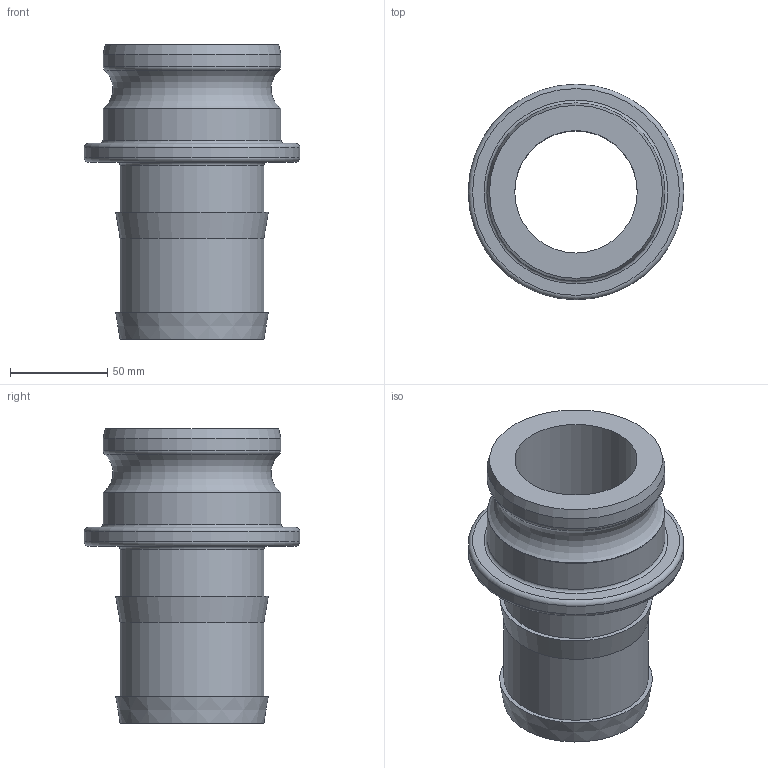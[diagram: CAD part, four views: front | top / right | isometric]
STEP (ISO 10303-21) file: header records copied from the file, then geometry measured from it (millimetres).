
FILE_DESCRIPTION(/* description */ ('Alibre Inc.'),/* implementation_level */ '2;1');
FILE_NAME(/* name */ 'export0',/* time_stamp */ '2016-03-25T17:59:20-04:00',/* author */ (''),/* organization */ (''),/* preprocessor_version */ 'ST-DEVELOPER v14',/* originating_system */ 'Alibre',/* authorisation */ '');
FILE_SCHEMA (('CONFIG_CONTROL_DESIGN'));
Length unit declared in the file: centimetre
Products named in the file (1): ID_1
Bounding box: 111 x 111 x 151.64 mm (x, y, z)
Volume: 334867.5 mm3; surface area: 82725.6 mm2
Topology: 1 solids, 1 shells, 22 faces, 38 edges, 22 vertices
Faces by surface type: cylinder 6, torus 6, plane 6, cone 4
Full cylindrical faces by diameter (mm): 62.992 x1, 74.168 x2, 91.542 x2, 110.998 x1
Entity records: 521 total; most frequent: DIRECTION 76, CARTESIAN_POINT 66, ORIENTED_EDGE 44, EDGE_LOOP 44, FACE_BOUND 44, AXIS2_PLACEMENT_3D 44, VERTEX_POINT 22, CIRCLE 22
